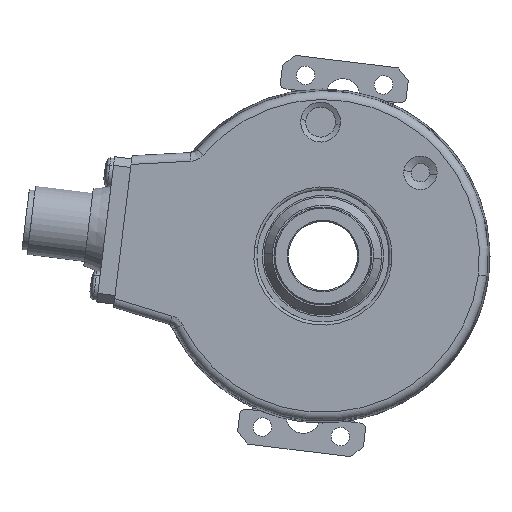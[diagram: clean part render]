
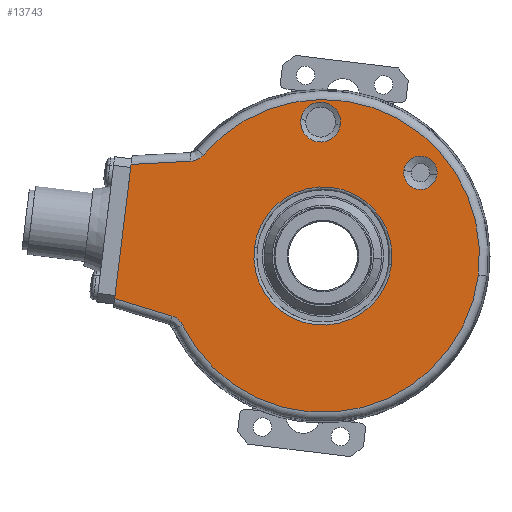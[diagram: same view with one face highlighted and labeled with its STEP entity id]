
A CAD part, left-side view. The second image highlights one B-rep face of the part: STEP entity #13743.
In plain terms, the highlighted planar face has unit normal (-1, 0, 0).
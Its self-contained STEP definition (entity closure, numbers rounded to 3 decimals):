
#394 = CARTESIAN_POINT ( 'NONE',  ( -19., -16.919, 14.45 ) ) ;
#395 = DIRECTION ( 'NONE',  ( 1., 0., 0. ) ) ;
#396 = DIRECTION ( 'NONE',  ( 0., -0.993, -0.122 ) ) ;
#397 = CARTESIAN_POINT ( 'NONE',  ( -19., 24.487, -11.781 ) ) ;
#398 = CARTESIAN_POINT ( 'NONE',  ( -19., 25.556, -10.618 ) ) ;
#399 = CARTESIAN_POINT ( 'NONE',  ( -19., 0.406, 23.246 ) ) ;
#400 = DIRECTION ( 'NONE',  ( 1., 0., 0. ) ) ;
#401 = DIRECTION ( 'NONE',  ( 0., -0.993, -0.122 ) ) ;
#402 = CARTESIAN_POINT ( 'NONE',  ( -19., 22.914, 16.45 ) ) ;
#403 = CARTESIAN_POINT ( 'NONE',  ( -19., 22.708, 16.461 ) ) ;
#404 = CARTESIAN_POINT ( 'NONE',  ( -19., 0., 0. ) ) ;
#405 = DIRECTION ( 'NONE',  ( 1., 0., 0. ) ) ;
#406 = DIRECTION ( 'NONE',  ( 0., -0.993, -0.122 ) ) ;
#407 = CARTESIAN_POINT ( 'NONE',  ( -19., 33.046, 15.919 ) ) ;
#408 = CARTESIAN_POINT ( 'NONE',  ( -19., 22.503, 16.493 ) ) ;
#409 = CARTESIAN_POINT ( 'NONE',  ( -19., 22.108, 16.597 ) ) ;
#410 = CARTESIAN_POINT ( 'NONE',  ( -19., 21.917, 16.669 ) ) ;
#411 = CARTESIAN_POINT ( 'NONE',  ( -19., 21.552, 16.851 ) ) ;
#412 = CARTESIAN_POINT ( 'NONE',  ( -19., 21.376, 16.962 ) ) ;
#413 = CARTESIAN_POINT ( 'NONE',  ( -19., 21.056, 17.213 ) ) ;
#414 = CARTESIAN_POINT ( 'NONE',  ( -19., 20.91, 17.355 ) ) ;
#415 = CARTESIAN_POINT ( 'NONE',  ( -19., 20.777, 17.512 ) ) ;
#416 = DIRECTION ( 'NONE',  ( 0., 0.999, -0.052 ) ) ;
#417 = CARTESIAN_POINT ( 'NONE',  ( -19., 36.354, -8.886 ) ) ;
#418 = CARTESIAN_POINT ( 'NONE',  ( -19., 24.396, -11.966 ) ) ;
#419 = DIRECTION ( 'NONE',  ( 0., -0.122, 0.993 ) ) ;
#420 = DIRECTION ( 'NONE',  ( 0., -0.956, -0.292 ) ) ;
#421 = CARTESIAN_POINT ( 'NONE',  ( -19., 24.597, -11.605 ) ) ;
#422 = CARTESIAN_POINT ( 'NONE',  ( -19., 24.848, -11.282 ) ) ;
#423 = CARTESIAN_POINT ( 'NONE',  ( -19., 24.989, -11.135 ) ) ;
#424 = CARTESIAN_POINT ( 'NONE',  ( -19., 25.3, -10.87 ) ) ;
#425 = CARTESIAN_POINT ( 'NONE',  ( -19., 25.471, -10.753 ) ) ;
#426 = CARTESIAN_POINT ( 'NONE',  ( -19., 25.828, -10.557 ) ) ;
#427 = CARTESIAN_POINT ( 'NONE',  ( -19., 26.016, -10.478 ) ) ;
#428 = CARTESIAN_POINT ( 'NONE',  ( -19., 26.213, -10.418 ) ) ;
#429 = CARTESIAN_POINT ( 'NONE',  ( -19., 0., 0. ) ) ;
#430 = DIRECTION ( 'NONE',  ( -1., 0., 0. ) ) ;
#431 = DIRECTION ( 'NONE',  ( 0., -0.993, -0.122 ) ) ;
#657 = VERTEX_POINT ( 'NONE', #17653 ) ;
#670 = VERTEX_POINT ( 'NONE', #17666 ) ;
#959 = VERTEX_POINT ( 'NONE', #17953 ) ;
#960 = VERTEX_POINT ( 'NONE', #17954 ) ;
#1041 = VERTEX_POINT ( 'NONE', #18035 ) ;
#1635 = ORIENTED_EDGE ( 'NONE', *, *, #7031, .T. ) ;
#1636 = ORIENTED_EDGE ( 'NONE', *, *, #7138, .T. ) ;
#1637 = ORIENTED_EDGE ( 'NONE', *, *, #7137, .F. ) ;
#1638 = ORIENTED_EDGE ( 'NONE', *, *, #7136, .T. ) ;
#1639 = ORIENTED_EDGE ( 'NONE', *, *, #7135, .F. ) ;
#1640 = ORIENTED_EDGE ( 'NONE', *, *, #7134, .T. ) ;
#1641 = ORIENTED_EDGE ( 'NONE', *, *, #7133, .F. ) ;
#1642 = ORIENTED_EDGE ( 'NONE', *, *, #7132, .T. ) ;
#1643 = ORIENTED_EDGE ( 'NONE', *, *, #7049, .T. ) ;
#1644 = ORIENTED_EDGE ( 'NONE', *, *, #7131, .T. ) ;
#1645 = ORIENTED_EDGE ( 'NONE', *, *, #3114, .T. ) ;
#1646 = ORIENTED_EDGE ( 'NONE', *, *, #7130, .T. ) ;
#1647 = ORIENTED_EDGE ( 'NONE', *, *, #25751, .T. ) ;
#3114 = EDGE_CURVE ( 'NONE', #10132, #10505, #31219, .T. ) ;
#3512 = AXIS2_PLACEMENT_3D ( 'NONE', #16188, #16189, #16190 ) ;
#7031 = EDGE_CURVE ( 'NONE', #10058, #9948, #31692, .T. ) ;
#7049 = EDGE_CURVE ( 'NONE', #10055, #10053, #31723, .T. ) ;
#7130 = EDGE_CURVE ( 'NONE', #10471, #10479, #31799, .T. ) ;
#7131 = EDGE_CURVE ( 'NONE', #10505, #10132, #31800, .T. ) ;
#7132 = EDGE_CURVE ( 'NONE', #10053, #10055, #31801, .T. ) ;
#7133 = EDGE_CURVE ( 'NONE', #959, #9948, #12489, .T. ) ;
#7134 = EDGE_CURVE ( 'NONE', #959, #670, #31802, .T. ) ;
#7135 = EDGE_CURVE ( 'NONE', #960, #670, #31792, .T. ) ;
#7136 = EDGE_CURVE ( 'NONE', #960, #1041, #31804, .T. ) ;
#7137 = EDGE_CURVE ( 'NONE', #657, #1041, #12490, .T. ) ;
#7138 = EDGE_CURVE ( 'NONE', #657, #10058, #31805, .T. ) ;
#8389 = DIRECTION ( 'NONE',  ( 1., 0., 0. ) ) ;
#8390 = CARTESIAN_POINT ( 'NONE',  ( -19., 0., 0. ) ) ;
#8394 = PLANE ( 'NONE',  #27636 ) ;
#8395 = DIRECTION ( 'NONE',  ( 0., -0.993, -0.122 ) ) ;
#9948 = VERTEX_POINT ( 'NONE', #16479 ) ;
#10053 = VERTEX_POINT ( 'NONE', #16584 ) ;
#10055 = VERTEX_POINT ( 'NONE', #16586 ) ;
#10058 = VERTEX_POINT ( 'NONE', #16589 ) ;
#10132 = VERTEX_POINT ( 'NONE', #16661 ) ;
#10471 = VERTEX_POINT ( 'NONE', #12326 ) ;
#10479 = VERTEX_POINT ( 'NONE', #12334 ) ;
#10505 = VERTEX_POINT ( 'NONE', #12360 ) ;
#12326 = CARTESIAN_POINT ( 'NONE',  ( -19., -19.796, 14.097 ) ) ;
#12334 = CARTESIAN_POINT ( 'NONE',  ( -19., -14.042, 14.804 ) ) ;
#12360 = CARTESIAN_POINT ( 'NONE',  ( -19., -3.034, 22.824 ) ) ;
#12489 = B_SPLINE_CURVE_WITH_KNOTS ( 'NONE', 3,
 ( #402, #403, #408, #409, #410, #411, #412, #413, #414, #415 ),
 .UNSPECIFIED., .F., .F.,
 ( 4, 2, 2, 2, 4 ),
 ( 0., 0.001, 0.001, 0.002, 0.002 ),
 .UNSPECIFIED. ) ;
#12490 = B_SPLINE_CURVE_WITH_KNOTS ( 'NONE', 3,
 ( #418, #397, #421, #422, #423, #424, #425, #426, #427, #428 ),
 .UNSPECIFIED., .F., .F.,
 ( 4, 2, 2, 2, 4 ),
 ( 0., 0.001, 0.001, 0.002, 0.002 ),
 .UNSPECIFIED. ) ;
#13743 = ADVANCED_FACE ( 'NONE', ( #26588, #26587, #26592, #26586 ), #8394, .F. ) ;
#15739 = CARTESIAN_POINT ( 'NONE',  ( -19., 0., 0. ) ) ;
#15740 = DIRECTION ( 'NONE',  ( -1., 0., 0. ) ) ;
#15741 = DIRECTION ( 'NONE',  ( 0., -0.993, -0.122 ) ) ;
#15783 = CARTESIAN_POINT ( 'NONE',  ( -19., 0., 0. ) ) ;
#15784 = DIRECTION ( 'NONE',  ( 1., 0., 0. ) ) ;
#15785 = DIRECTION ( 'NONE',  ( 0., -0.993, -0.122 ) ) ;
#16188 = CARTESIAN_POINT ( 'NONE',  ( -19., 0.406, 23.246 ) ) ;
#16189 = DIRECTION ( 'NONE',  ( 1., 0., 0. ) ) ;
#16190 = DIRECTION ( 'NONE',  ( 0., -0.993, -0.122 ) ) ;
#16479 = CARTESIAN_POINT ( 'NONE',  ( -19., 20.777, 17.512 ) ) ;
#16584 = CARTESIAN_POINT ( 'NONE',  ( -19., 11.911, 1.462 ) ) ;
#16586 = CARTESIAN_POINT ( 'NONE',  ( -19., -11.911, -1.462 ) ) ;
#16589 = CARTESIAN_POINT ( 'NONE',  ( -19., -26.97, -3.312 ) ) ;
#16661 = CARTESIAN_POINT ( 'NONE',  ( -19., 3.846, 23.669 ) ) ;
#17253 = AXIS2_PLACEMENT_3D ( 'NONE', #28810, #28811, #28812 ) ;
#17653 = CARTESIAN_POINT ( 'NONE',  ( -19., 24.396, -11.966 ) ) ;
#17666 = CARTESIAN_POINT ( 'NONE',  ( -19., 33.31, 15.905 ) ) ;
#17953 = CARTESIAN_POINT ( 'NONE',  ( -19., 22.914, 16.45 ) ) ;
#17954 = CARTESIAN_POINT ( 'NONE',  ( -19., 36.168, -7.374 ) ) ;
#18035 = CARTESIAN_POINT ( 'NONE',  ( -19., 26.213, -10.418 ) ) ;
#21284 = EDGE_LOOP ( 'NONE', ( #1643, #1642 ) ) ;
#21285 = EDGE_LOOP ( 'NONE', ( #1645, #1644 ) ) ;
#21402 = EDGE_LOOP ( 'NONE', ( #1641, #1640, #1639, #1638, #1637, #1636, #1635 ) ) ;
#21426 = EDGE_LOOP ( 'NONE', ( #1647, #1646 ) ) ;
#25751 = EDGE_CURVE ( 'NONE', #10479, #10471, #29921, .T. ) ;
#26586 = FACE_OUTER_BOUND ( 'NONE', #21402, .T. ) ;
#26587 = FACE_BOUND ( 'NONE', #21285, .T. ) ;
#26588 = FACE_BOUND ( 'NONE', #21426, .T. ) ;
#26592 = FACE_BOUND ( 'NONE', #21284, .T. ) ;
#27365 = AXIS2_PLACEMENT_3D ( 'NONE', #15739, #15740, #15741 ) ;
#27373 = AXIS2_PLACEMENT_3D ( 'NONE', #15783, #15784, #15785 ) ;
#27410 = AXIS2_PLACEMENT_3D ( 'NONE', #394, #395, #396 ) ;
#27411 = AXIS2_PLACEMENT_3D ( 'NONE', #399, #400, #401 ) ;
#27412 = AXIS2_PLACEMENT_3D ( 'NONE', #404, #405, #406 ) ;
#27413 = AXIS2_PLACEMENT_3D ( 'NONE', #429, #430, #431 ) ;
#27636 = AXIS2_PLACEMENT_3D ( 'NONE', #8390, #8389, #8395 ) ;
#28810 = CARTESIAN_POINT ( 'NONE',  ( -19., -16.919, 14.45 ) ) ;
#28811 = DIRECTION ( 'NONE',  ( 1., 0., 0. ) ) ;
#28812 = DIRECTION ( 'NONE',  ( 0., -0.993, -0.122 ) ) ;
#29921 = CIRCLE ( 'NONE', #17253, 2.899 ) ;
#31219 = CIRCLE ( 'NONE', #3512, 3.466 ) ;
#31692 = CIRCLE ( 'NONE', #27365, 27.173 ) ;
#31723 = CIRCLE ( 'NONE', #27373, 12. ) ;
#31792 = LINE ( 'NONE', #417, #31806 ) ;
#31799 = CIRCLE ( 'NONE', #27410, 2.899 ) ;
#31800 = CIRCLE ( 'NONE', #27411, 3.466 ) ;
#31801 = CIRCLE ( 'NONE', #27412, 12. ) ;
#31802 = LINE ( 'NONE', #407, #31803 ) ;
#31803 = VECTOR ( 'NONE', #416, 1000. ) ;
#31804 = LINE ( 'NONE', #398, #31808 ) ;
#31805 = CIRCLE ( 'NONE', #27413, 27.173 ) ;
#31806 = VECTOR ( 'NONE', #419, 1000. ) ;
#31808 = VECTOR ( 'NONE', #420, 1000. ) ;
